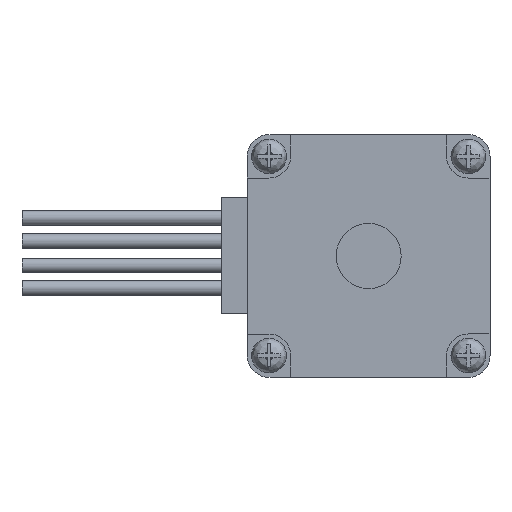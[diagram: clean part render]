
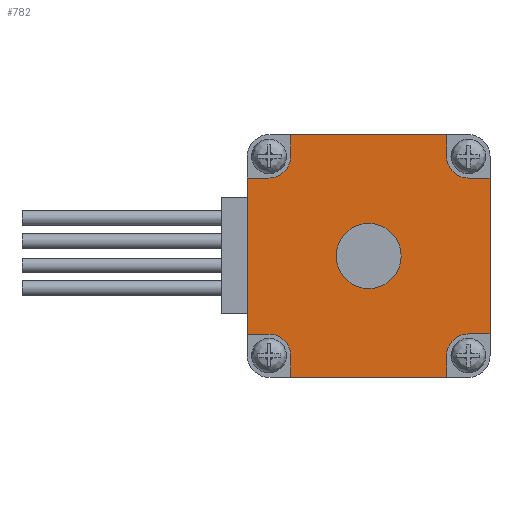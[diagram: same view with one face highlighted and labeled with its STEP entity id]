
A CAD part, front view. The second image highlights one B-rep face of the part: STEP entity #782.
In plain terms, the highlighted planar face has unit normal (0, -1, 0).
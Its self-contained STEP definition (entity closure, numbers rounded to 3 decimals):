
#295=FACE_BOUND('',#1509,.T.);
#296=FACE_BOUND('',#1510,.T.);
#596=CIRCLE('',#4831,3.75);
#597=CIRCLE('',#4832,2.5);
#598=CIRCLE('',#4833,2.5);
#599=CIRCLE('',#4834,2.5);
#600=CIRCLE('',#4835,2.5);
#782=ADVANCED_FACE('',(#295,#296),#992,.T.);
#992=PLANE('',#4836);
#1509=EDGE_LOOP('',(#2335));
#1510=EDGE_LOOP('',(#2336,#2337,#2338,#2339,#2340,#2341,#2342,#2343,#2344,
#2345,#2346,#2347,#2348,#2349,#2350,#2351));
#2335=ORIENTED_EDGE('',*,*,#3622,.F.);
#2336=ORIENTED_EDGE('',*,*,#3623,.F.);
#2337=ORIENTED_EDGE('',*,*,#3607,.T.);
#2338=ORIENTED_EDGE('',*,*,#3624,.F.);
#2339=ORIENTED_EDGE('',*,*,#3625,.F.);
#2340=ORIENTED_EDGE('',*,*,#3626,.F.);
#2341=ORIENTED_EDGE('',*,*,#3612,.T.);
#2342=ORIENTED_EDGE('',*,*,#3627,.F.);
#2343=ORIENTED_EDGE('',*,*,#3628,.F.);
#2344=ORIENTED_EDGE('',*,*,#3629,.F.);
#2345=ORIENTED_EDGE('',*,*,#3617,.T.);
#2346=ORIENTED_EDGE('',*,*,#3630,.F.);
#2347=ORIENTED_EDGE('',*,*,#3631,.F.);
#2348=ORIENTED_EDGE('',*,*,#3632,.F.);
#2349=ORIENTED_EDGE('',*,*,#3572,.T.);
#2350=ORIENTED_EDGE('',*,*,#3633,.F.);
#2351=ORIENTED_EDGE('',*,*,#3634,.F.);
#3080=VERTEX_POINT('',#7406);
#3081=VERTEX_POINT('',#7408);
#3107=VERTEX_POINT('',#7483);
#3108=VERTEX_POINT('',#7484);
#3111=VERTEX_POINT('',#7493);
#3112=VERTEX_POINT('',#7494);
#3115=VERTEX_POINT('',#7503);
#3116=VERTEX_POINT('',#7504);
#3119=VERTEX_POINT('',#7513);
#3120=VERTEX_POINT('',#7515);
#3121=VERTEX_POINT('',#7517);
#3122=VERTEX_POINT('',#7519);
#3123=VERTEX_POINT('',#7522);
#3124=VERTEX_POINT('',#7524);
#3125=VERTEX_POINT('',#7527);
#3126=VERTEX_POINT('',#7529);
#3127=VERTEX_POINT('',#7532);
#3572=EDGE_CURVE('',#3081,#3080,#3992,.T.);
#3607=EDGE_CURVE('',#3107,#3108,#4016,.T.);
#3612=EDGE_CURVE('',#3111,#3112,#4021,.T.);
#3617=EDGE_CURVE('',#3115,#3116,#4026,.T.);
#3622=EDGE_CURVE('',#3119,#3119,#596,.T.);
#3623=EDGE_CURVE('',#3107,#3120,#4031,.T.);
#3624=EDGE_CURVE('',#3121,#3108,#4032,.T.);
#3625=EDGE_CURVE('',#3122,#3121,#597,.T.);
#3626=EDGE_CURVE('',#3111,#3122,#4033,.T.);
#3627=EDGE_CURVE('',#3123,#3112,#4034,.T.);
#3628=EDGE_CURVE('',#3124,#3123,#598,.T.);
#3629=EDGE_CURVE('',#3115,#3124,#4035,.T.);
#3630=EDGE_CURVE('',#3125,#3116,#4036,.T.);
#3631=EDGE_CURVE('',#3126,#3125,#599,.T.);
#3632=EDGE_CURVE('',#3081,#3126,#4037,.T.);
#3633=EDGE_CURVE('',#3127,#3080,#4038,.T.);
#3634=EDGE_CURVE('',#3120,#3127,#600,.T.);
#3992=LINE('',#7407,#4376);
#4016=LINE('',#7482,#4400);
#4021=LINE('',#7492,#4405);
#4026=LINE('',#7502,#4410);
#4031=LINE('',#7514,#4415);
#4032=LINE('',#7516,#4416);
#4033=LINE('',#7520,#4417);
#4034=LINE('',#7521,#4418);
#4035=LINE('',#7525,#4419);
#4036=LINE('',#7526,#4420);
#4037=LINE('',#7530,#4421);
#4038=LINE('',#7531,#4422);
#4376=VECTOR('',#5677,1.);
#4400=VECTOR('',#5751,1.);
#4405=VECTOR('',#5758,1.);
#4410=VECTOR('',#5765,1.);
#4415=VECTOR('',#5774,1.);
#4416=VECTOR('',#5775,1.);
#4417=VECTOR('',#5778,1.);
#4418=VECTOR('',#5779,1.);
#4419=VECTOR('',#5782,1.);
#4420=VECTOR('',#5783,1.);
#4421=VECTOR('',#5786,1.);
#4422=VECTOR('',#5787,1.);
#4831=AXIS2_PLACEMENT_3D('',#7512,#5772,#5773);
#4832=AXIS2_PLACEMENT_3D('',#7518,#5776,#5777);
#4833=AXIS2_PLACEMENT_3D('',#7523,#5780,#5781);
#4834=AXIS2_PLACEMENT_3D('',#7528,#5784,#5785);
#4835=AXIS2_PLACEMENT_3D('',#7533,#5788,#5789);
#4836=AXIS2_PLACEMENT_3D('',#7534,#5790,#5791);
#5677=DIRECTION('',(0.,0.,-1.));
#5751=DIRECTION('',(1.,0.,0.));
#5758=DIRECTION('',(0.,0.,1.));
#5765=DIRECTION('',(-1.,0.,0.));
#5772=DIRECTION('',(0.,-1.,0.));
#5773=DIRECTION('',(0.,0.,-1.));
#5774=DIRECTION('',(0.,0.,1.));
#5775=DIRECTION('',(0.,0.,-1.));
#5776=DIRECTION('',(0.,-1.,0.));
#5777=DIRECTION('',(-1.,0.,0.));
#5778=DIRECTION('',(-1.,0.,0.));
#5779=DIRECTION('',(1.,0.,0.));
#5780=DIRECTION('',(0.,-1.,0.));
#5781=DIRECTION('',(0.,0.,-1.));
#5782=DIRECTION('',(0.,0.,-1.));
#5783=DIRECTION('',(0.,0.,1.));
#5784=DIRECTION('',(0.,-1.,0.));
#5785=DIRECTION('',(1.,0.,0.));
#5786=DIRECTION('',(1.,0.,0.));
#5787=DIRECTION('',(-1.,0.,0.));
#5788=DIRECTION('',(0.,-1.,0.));
#5789=DIRECTION('',(0.,0.,1.));
#5790=DIRECTION('',(0.,-1.,0.));
#5791=DIRECTION('',(0.,0.,-1.));
#7406=CARTESIAN_POINT('',(-14.,-7.1,-9.));
#7407=CARTESIAN_POINT('',(-14.,-7.1,11.5));
#7408=CARTESIAN_POINT('',(-14.,-7.1,9.));
#7482=CARTESIAN_POINT('',(-11.5,-7.1,-14.));
#7483=CARTESIAN_POINT('',(-9.,-7.1,-14.));
#7484=CARTESIAN_POINT('',(9.,-7.1,-14.));
#7492=CARTESIAN_POINT('',(14.,-7.1,-11.5));
#7493=CARTESIAN_POINT('',(14.,-7.1,-9.));
#7494=CARTESIAN_POINT('',(14.,-7.1,9.));
#7502=CARTESIAN_POINT('',(11.5,-7.1,14.));
#7503=CARTESIAN_POINT('',(9.,-7.1,14.));
#7504=CARTESIAN_POINT('',(-9.,-7.1,14.));
#7512=CARTESIAN_POINT('',(0.,-7.1,0.));
#7513=CARTESIAN_POINT('',(0.,-7.1,-3.75));
#7514=CARTESIAN_POINT('',(-9.,-7.1,-16.231));
#7515=CARTESIAN_POINT('',(-9.,-7.1,-11.5));
#7516=CARTESIAN_POINT('',(9.,-7.1,-11.5));
#7517=CARTESIAN_POINT('',(9.,-7.1,-11.5));
#7518=CARTESIAN_POINT('',(11.5,-7.1,-11.5));
#7519=CARTESIAN_POINT('',(11.5,-7.1,-9.));
#7520=CARTESIAN_POINT('',(16.231,-7.1,-9.));
#7521=CARTESIAN_POINT('',(11.5,-7.1,9.));
#7522=CARTESIAN_POINT('',(11.5,-7.1,9.));
#7523=CARTESIAN_POINT('',(11.5,-7.1,11.5));
#7524=CARTESIAN_POINT('',(9.,-7.1,11.5));
#7525=CARTESIAN_POINT('',(9.,-7.1,16.231));
#7526=CARTESIAN_POINT('',(-9.,-7.1,11.5));
#7527=CARTESIAN_POINT('',(-9.,-7.1,11.5));
#7528=CARTESIAN_POINT('',(-11.5,-7.1,11.5));
#7529=CARTESIAN_POINT('',(-11.5,-7.1,9.));
#7530=CARTESIAN_POINT('',(-16.231,-7.1,9.));
#7531=CARTESIAN_POINT('',(-11.5,-7.1,-9.));
#7532=CARTESIAN_POINT('',(-11.5,-7.1,-9.));
#7533=CARTESIAN_POINT('',(-11.5,-7.1,-11.5));
#7534=CARTESIAN_POINT('',(-11.5,-7.1,-11.5));
